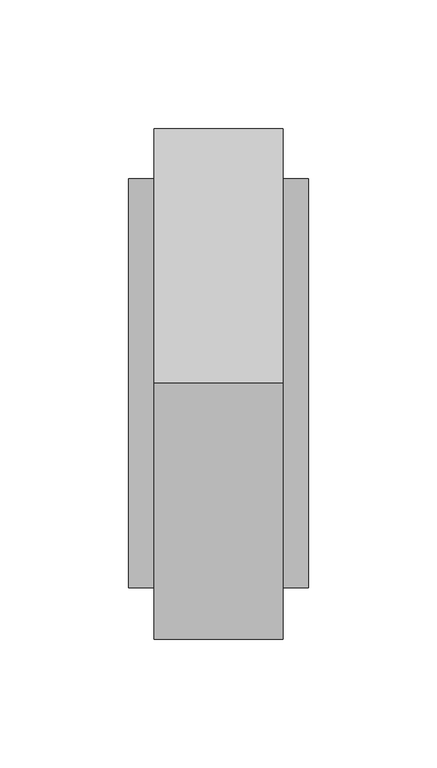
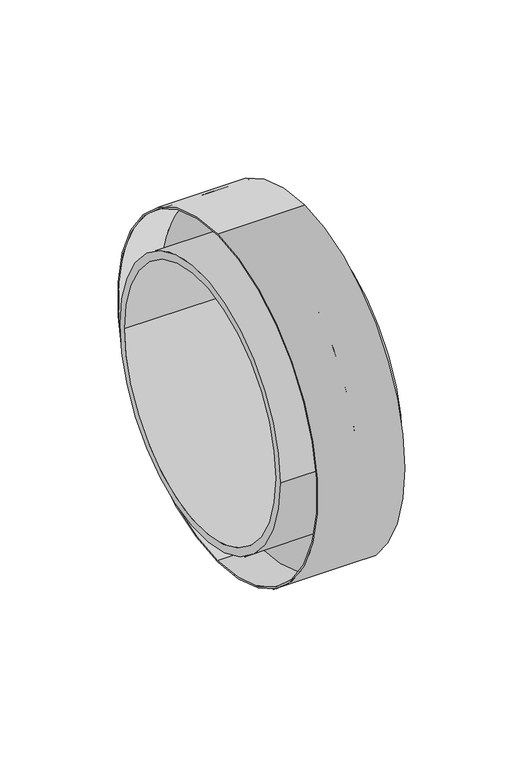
"""IFC4 building model written with IfcOpenShell, lengths in millimetres: duct fitting geometry, HEATPEX - ARIA ADURO - Łącznik z uszczelką : HEATPEX - ARIA ADURO - Łącznik z uszczelką."""

from ifc_helpers import new_model, si_unit, frame, origin, place, context, project, spatial, polyline, circle_curve, source, transform, mapped, element, save
from ifc_brep_helpers import plane_surface, cylinder_surface, revolved_surface, advanced_brep


def duct_fitting_05c502d2(model_context):
    return source(origin(), model_context, "Body", "AdvancedBrep", [
        advanced_brep(
        [(-1.0, 0.0, 98.5), (-1.0, 0.0, -98.5), (-1.0, 0.0, 79.5), (-1.0, -79.5, 0.0), (-1.0, 0.0, -79.5), (-1.0, 79.5, 0.0), (1.0, 0.0, -98.5), (1.0, 0.0, 98.5), (1.0, -79.5, 0.0), (1.0, 0.0, 79.5), (1.0, 79.5, 0.0), (1.0, 0.0, -79.5), (-25.0, 0.0, -99.5), (-25.0, 0.0, 99.5), (-25.0, 0.0, -98.5), (-25.0, 0.0, 98.5), (25.0, 0.0, -99.5), (25.0, 0.0, 99.5), (25.0, 0.0, -98.5), (25.0, 0.0, 98.5), (-35.0, -79.5, 0.0), (-35.0, 79.5, 0.0), (-35.0, -75.0, 0.0), (-35.0, 75.0, 0.0), (35.0, -79.5, 0.0), (35.0, 79.5, 0.0), (35.0, -75.0, 0.0), (35.0, 75.0, 0.0)],
        [
            (0, 1, circle_curve(frame((-1.0, 0.0, 0.0), z_axis=(-1.0, 0.0, 0.0), x_axis=(0.0, 0.0, 1.0)), 98.5)),
            (1, 0, circle_curve(frame((-1.0, 0.0, 0.0), z_axis=(-1.0, 0.0, 0.0), x_axis=(0.0, 0.0, 1.0)), 98.5)),
            (2, 3, circle_curve(frame((-1.0, 0.0, 0.0), z_axis=(1.0, 0.0, 0.0), x_axis=(0.0, 1.0, 0.0)), 79.5)),
            (3, 4, circle_curve(frame((-1.0, 0.0, 0.0), z_axis=(1.0, 0.0, 0.0), x_axis=(0.0, 1.0, 0.0)), 79.5)),
            (4, 5, circle_curve(frame((-1.0, 0.0, 0.0), z_axis=(1.0, 0.0, 0.0), x_axis=(0.0, 1.0, 0.0)), 79.5)),
            (5, 2, circle_curve(frame((-1.0, 0.0, 0.0), z_axis=(1.0, 0.0, 0.0), x_axis=(0.0, 1.0, 0.0)), 79.5)),
            (6, 7, circle_curve(frame((1.0, 0.0, 0.0), z_axis=(1.0, 0.0, 0.0), x_axis=(0.0, 0.0, 1.0)), 98.5)),
            (7, 6, circle_curve(frame((1.0, 0.0, 0.0), z_axis=(1.0, 0.0, 0.0), x_axis=(0.0, 0.0, 1.0)), 98.5)),
            (8, 9, circle_curve(frame((1.0, 0.0, 0.0), z_axis=(-1.0, 0.0, 0.0), x_axis=(0.0, 1.0, 0.0)), 79.5)),
            (9, 10, circle_curve(frame((1.0, 0.0, 0.0), z_axis=(-1.0, 0.0, 0.0), x_axis=(0.0, 1.0, 0.0)), 79.5)),
            (10, 11, circle_curve(frame((1.0, 0.0, 0.0), z_axis=(-1.0, 0.0, 0.0), x_axis=(0.0, 1.0, 0.0)), 79.5)),
            (11, 8, circle_curve(frame((1.0, 0.0, 0.0), z_axis=(-1.0, 0.0, 0.0), x_axis=(0.0, 1.0, 0.0)), 79.5)),
            (12, 13, circle_curve(frame((-25.0, 0.0, 0.0), z_axis=(-1.0, 0.0, 0.0), x_axis=(0.0, 0.0, 1.0)), 99.5)),
            (13, 12, circle_curve(frame((-25.0, 0.0, 0.0), z_axis=(-1.0, 0.0, 0.0), x_axis=(0.0, 0.0, 1.0)), 99.5)),
            (14, 15, circle_curve(frame((-25.0, 0.0, 0.0), z_axis=(1.0, 0.0, 0.0), x_axis=(0.0, 0.0, 1.0)), 98.5)),
            (15, 14, circle_curve(frame((-25.0, 0.0, 0.0), z_axis=(1.0, 0.0, 0.0), x_axis=(0.0, 0.0, 1.0)), 98.5)),
            (16, 17, circle_curve(frame((25.0, 0.0, 0.0), z_axis=(1.0, 0.0, 0.0), x_axis=(0.0, 0.0, 1.0)), 99.5)),
            (17, 16, circle_curve(frame((25.0, 0.0, 0.0), z_axis=(1.0, 0.0, 0.0), x_axis=(0.0, 0.0, 1.0)), 99.5)),
            (18, 19, circle_curve(frame((25.0, 0.0, 0.0), z_axis=(-1.0, 0.0, 0.0), x_axis=(0.0, 0.0, 1.0)), 98.5)),
            (19, 18, circle_curve(frame((25.0, 0.0, 0.0), z_axis=(-1.0, 0.0, 0.0), x_axis=(0.0, 0.0, 1.0)), 98.5)),
            (14, 1),
            (0, 15),
            (19, 7),
            (6, 18),
            (12, 16),
            (17, 13),
            (20, 21, circle_curve(frame((-35.0, 0.0, 0.0), z_axis=(-1.0, 0.0, 0.0), x_axis=(0.0, 1.0, 0.0)), 79.5)),
            (21, 20, circle_curve(frame((-35.0, 0.0, 0.0), z_axis=(-1.0, 0.0, 0.0), x_axis=(0.0, 1.0, 0.0)), 79.5)),
            (22, 23, circle_curve(frame((-35.0, 0.0, 0.0), z_axis=(1.0, 0.0, 0.0), x_axis=(0.0, 1.0, 0.0)), 75.0)),
            (23, 22, circle_curve(frame((-35.0, 0.0, 0.0), z_axis=(1.0, 0.0, 0.0), x_axis=(0.0, 1.0, 0.0)), 75.0)),
            (24, 25, circle_curve(frame((35.0, 0.0, 0.0), z_axis=(1.0, 0.0, 0.0), x_axis=(0.0, 1.0, 0.0)), 79.5)),
            (25, 24, circle_curve(frame((35.0, 0.0, 0.0), z_axis=(1.0, 0.0, 0.0), x_axis=(0.0, 1.0, 0.0)), 79.5)),
            (26, 27, circle_curve(frame((35.0, 0.0, 0.0), z_axis=(-1.0, 0.0, 0.0), x_axis=(0.0, 1.0, 0.0)), 75.0)),
            (27, 26, circle_curve(frame((35.0, 0.0, 0.0), z_axis=(-1.0, 0.0, 0.0), x_axis=(0.0, 1.0, 0.0)), 75.0)),
            (22, 26),
            (27, 23),
            (20, 3),
            (5, 21),
            (25, 10),
            (8, 24),
        ],
        [
            plane_surface(frame((-1.0, 0.0, 0.0), z_axis=(-1.0, 0.0, 0.0), x_axis=(0.0, -1.0, 0.0))),
            plane_surface(frame((1.0, 0.0, 0.0), z_axis=(1.0, 0.0, 0.0), x_axis=(0.0, -1.0, 0.0))),
            plane_surface(frame((-25.0, 0.0, 0.0), z_axis=(-1.0, 0.0, 0.0), x_axis=(0.0, -1.0, 0.0))),
            plane_surface(frame((25.0, 0.0, 0.0), z_axis=(1.0, 0.0, 0.0), x_axis=(0.0, -1.0, 0.0))),
            revolved_surface(polyline([(-1.0, 0.0, 98.5), (-25.0, 0.0, 98.5)]), (-25.0, 0.0, 0.0), (1.0, 0.0, 0.0)),
            revolved_surface(polyline([(25.0, 0.0, 98.5), (1.0, 0.0, 98.5)]), (-25.0, 0.0, 0.0), (1.0, 0.0, 0.0)),
            cylinder_surface(frame((-25.0, 0.0, 0.0), z_axis=(-1.0, 0.0, 0.0), x_axis=(0.0, 0.0, 1.0)), 99.5),
            plane_surface(frame((-35.0, 0.0, 0.0), z_axis=(-1.0, 0.0, 0.0), x_axis=(0.0, 0.0, 1.0))),
            plane_surface(frame((35.0, 0.0, 0.0), z_axis=(1.0, 0.0, 0.0), x_axis=(0.0, 0.0, 1.0))),
            revolved_surface(polyline([(35.0, 75.0, 0.0), (-35.0, 75.0, 0.0)]), (-35.0, 0.0, 0.0), (1.0, 0.0, 0.0)),
            cylinder_surface(frame((-35.0, 0.0, 0.0), z_axis=(-1.0, 0.0, 0.0), x_axis=(0.0, 1.0, 0.0)), 79.5),
        ],
        [
            (0, [[1, 2], [3, 4, 5, 6]]),
            (1, [[7, 8], [9, 10, 11, 12]]),
            (2, [[13, 14], [15, 16]]),
            (3, [[17, 18], [19, 20]]),
            (4, [[-15, 21, -1, 22]]),
            (5, [[-20, 23, -7, 24]]),
            (4, [[-16, -22, -2, -21]]),
            (5, [[-19, -24, -8, -23]]),
            (6, [[-13, 25, -18, 26]]),
            (6, [[-14, -26, -17, -25]]),
            (7, [[27, 28], [29, 30]]),
            (8, [[31, 32], [33, 34]]),
            (9, [[-29, 35, -34, 36]]),
            (9, [[-30, -36, -33, -35]]),
            (10, [[-27, 37, -3, -6, 38]]),
            (10, [[-32, 39, -10, -9, 40]]),
            (10, [[-28, -38, -5, -4, -37]]),
            (10, [[-31, -40, -12, -11, -39]]),
        ],
    ),
    ])


if __name__ == "__main__":
    model = new_model("IFC4")
    model_context = context("Model", 3, world=origin())
    ifc_project = project(units=[si_unit("LENGTHUNIT", "METRE", prefix="MILLI")], contexts=[model_context])
    site = spatial("IfcSite", under=ifc_project)
    building = spatial("IfcBuilding", under=site)
    placement = place(None, origin())
    duct_fitting_shape = duct_fitting_05c502d2(model_context)
    element("IfcDuctFitting", 1, ObjectType="HEATPEX - ARIA ADURO - Łącznik z uszczelką : HEATPEX - ARIA ADURO - Łącznik z uszczelką", at=placement, inside=building, context=model_context, shape_type="MappedRepresentation", body=[
        mapped(duct_fitting_shape, transform((0.0, 0.0, 0.0), x_axis=(1.0, 0.0, 0.0), y_axis=(0.0, 1.0, 0.0), z_axis=(0.0, 0.0, 1.0))),
    ])
    save(model, "model.ifc")
